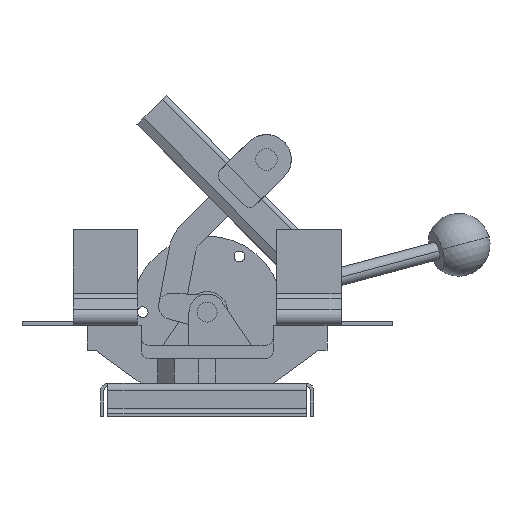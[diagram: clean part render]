
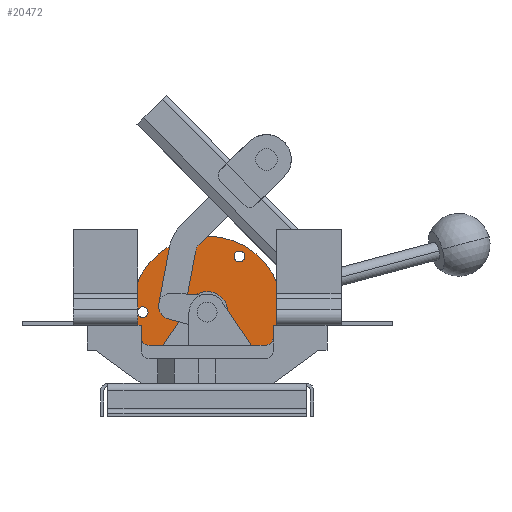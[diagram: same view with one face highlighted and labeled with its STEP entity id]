
A CAD part, left-side view. The second image highlights one B-rep face of the part: STEP entity #20472.
In plain terms, the highlighted planar face has unit normal (-1, 0, 0).
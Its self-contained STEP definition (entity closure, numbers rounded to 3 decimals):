
#100 = CARTESIAN_POINT ( 'NONE',  ( 170., 0., 0. ) ) ;
#436 = EDGE_CURVE ( 'NONE', #9251, #494, #24635, .T. ) ;
#439 = CARTESIAN_POINT ( 'NONE',  ( 170., 0., -12.5 ) ) ;
#494 = VERTEX_POINT ( 'NONE', #7310 ) ;
#1192 = ORIENTED_EDGE ( 'NONE', *, *, #17752, .F. ) ;
#1714 = DIRECTION ( 'NONE',  ( -1., 0., 0. ) ) ;
#1959 = AXIS2_PLACEMENT_3D ( 'NONE', #15404, #1714, #9380 ) ;
#2087 = EDGE_LOOP ( 'NONE', ( #4791, #1192 ) ) ;
#2116 = DIRECTION ( 'NONE',  ( 1., 0., 0. ) ) ;
#2406 = AXIS2_PLACEMENT_3D ( 'NONE', #23362, #25361, #15227 ) ;
#2428 = CARTESIAN_POINT ( 'NONE',  ( 170., -19.5, -33.775 ) ) ;
#2524 = CIRCLE ( 'NONE', #9730, 3.25 ) ;
#2680 = CARTESIAN_POINT ( 'NONE',  ( 170., 39., 0. ) ) ;
#2716 = ORIENTED_EDGE ( 'NONE', *, *, #9230, .T. ) ;
#2866 = CARTESIAN_POINT ( 'NONE',  ( 170., 39., 0. ) ) ;
#3797 = EDGE_LOOP ( 'NONE', ( #22595, #2716 ) ) ;
#4791 = ORIENTED_EDGE ( 'NONE', *, *, #6083, .F. ) ;
#5829 = CARTESIAN_POINT ( 'NONE',  ( 170., 0., 12.5 ) ) ;
#5883 = ORIENTED_EDGE ( 'NONE', *, *, #15957, .F. ) ;
#6083 = EDGE_CURVE ( 'NONE', #24909, #25318, #11744, .T. ) ;
#6984 = FACE_BOUND ( 'NONE', #3797, .T. ) ;
#7310 = CARTESIAN_POINT ( 'NONE',  ( 170., 39., 3.25 ) ) ;
#7479 = AXIS2_PLACEMENT_3D ( 'NONE', #2866, #16770, #18560 ) ;
#7558 = CARTESIAN_POINT ( 'NONE',  ( 170., -19.5, -30.525 ) ) ;
#7891 = DIRECTION ( 'NONE',  ( 0., 0., -1. ) ) ;
#8018 = ORIENTED_EDGE ( 'NONE', *, *, #20959, .F. ) ;
#8351 = DIRECTION ( 'NONE',  ( 0., 0., -1. ) ) ;
#8518 = FACE_BOUND ( 'NONE', #17915, .T. ) ;
#9230 = EDGE_CURVE ( 'NONE', #24754, #22999, #14342, .T. ) ;
#9251 = VERTEX_POINT ( 'NONE', #24886 ) ;
#9380 = DIRECTION ( 'NONE',  ( 0., 0., -1. ) ) ;
#9730 = AXIS2_PLACEMENT_3D ( 'NONE', #18233, #22162, #12291 ) ;
#9997 = DIRECTION ( 'NONE',  ( 0., 0., -1. ) ) ;
#10114 = CIRCLE ( 'NONE', #16747, 3.25 ) ;
#10154 = DIRECTION ( 'NONE',  ( 1., 0., 0. ) ) ;
#10665 = CARTESIAN_POINT ( 'NONE',  ( 170., 0., -46. ) ) ;
#10672 = FACE_OUTER_BOUND ( 'NONE', #2087, .T. ) ;
#10698 = CIRCLE ( 'NONE', #10847, 12.5 ) ;
#10847 = AXIS2_PLACEMENT_3D ( 'NONE', #100, #10154, #9997 ) ;
#11131 = DIRECTION ( 'NONE',  ( 0., 0., -1. ) ) ;
#11479 = AXIS2_PLACEMENT_3D ( 'NONE', #2428, #20123, #13968 ) ;
#11744 = CIRCLE ( 'NONE', #2406, 46. ) ;
#12134 = EDGE_LOOP ( 'NONE', ( #21675, #21307 ) ) ;
#12291 = DIRECTION ( 'NONE',  ( 0., 0., -1. ) ) ;
#12324 = CARTESIAN_POINT ( 'NONE',  ( 170., -19.5, 37.025 ) ) ;
#12377 = EDGE_CURVE ( 'NONE', #22999, #24754, #10698, .T. ) ;
#13653 = AXIS2_PLACEMENT_3D ( 'NONE', #19806, #2116, #22730 ) ;
#13689 = ORIENTED_EDGE ( 'NONE', *, *, #17153, .F. ) ;
#13968 = DIRECTION ( 'NONE',  ( 0., 0., -1. ) ) ;
#14326 = CARTESIAN_POINT ( 'NONE',  ( 170., -19.5, 30.525 ) ) ;
#14342 = CIRCLE ( 'NONE', #18821, 12.5 ) ;
#14559 = DIRECTION ( 'NONE',  ( -1., 0., 0. ) ) ;
#15180 = CARTESIAN_POINT ( 'NONE',  ( 170., 0., 0. ) ) ;
#15227 = DIRECTION ( 'NONE',  ( 0., 0., -1. ) ) ;
#15277 = VERTEX_POINT ( 'NONE', #12324 ) ;
#15404 = CARTESIAN_POINT ( 'NONE',  ( 170., -19.5, 33.775 ) ) ;
#15941 = FACE_BOUND ( 'NONE', #17725, .T. ) ;
#15957 = EDGE_CURVE ( 'NONE', #19913, #21338, #16568, .T. ) ;
#15998 = CARTESIAN_POINT ( 'NONE',  ( 170., -19.5, 33.775 ) ) ;
#16568 = CIRCLE ( 'NONE', #11479, 3.25 ) ;
#16747 = AXIS2_PLACEMENT_3D ( 'NONE', #15998, #19983, #7891 ) ;
#16767 = DIRECTION ( 'NONE',  ( 0., 0., -1. ) ) ;
#16770 = DIRECTION ( 'NONE',  ( -1., 0., 0. ) ) ;
#16839 = CARTESIAN_POINT ( 'NONE',  ( 170., 0., 0. ) ) ;
#17153 = EDGE_CURVE ( 'NONE', #21338, #19913, #2524, .T. ) ;
#17725 = EDGE_LOOP ( 'NONE', ( #18361, #8018 ) ) ;
#17752 = EDGE_CURVE ( 'NONE', #25318, #24909, #20443, .T. ) ;
#17915 = EDGE_LOOP ( 'NONE', ( #5883, #13689 ) ) ;
#17998 = CARTESIAN_POINT ( 'NONE',  ( 170., 0., 46. ) ) ;
#18233 = CARTESIAN_POINT ( 'NONE',  ( 170., -19.5, -33.775 ) ) ;
#18361 = ORIENTED_EDGE ( 'NONE', *, *, #436, .F. ) ;
#18560 = DIRECTION ( 'NONE',  ( 0., 0., -1. ) ) ;
#18775 = EDGE_CURVE ( 'NONE', #18900, #15277, #10114, .T. ) ;
#18821 = AXIS2_PLACEMENT_3D ( 'NONE', #15180, #22821, #11131 ) ;
#18900 = VERTEX_POINT ( 'NONE', #14326 ) ;
#19806 = CARTESIAN_POINT ( 'NONE',  ( 170., 0., 0. ) ) ;
#19913 = VERTEX_POINT ( 'NONE', #25556 ) ;
#19983 = DIRECTION ( 'NONE',  ( -1., 0., 0. ) ) ;
#20123 = DIRECTION ( 'NONE',  ( -1., 0., 0. ) ) ;
#20443 = CIRCLE ( 'NONE', #22845, 46. ) ;
#20472 = ADVANCED_FACE ( 'NONE', ( #22163, #15941, #8518, #6984, #10672 ), #23873, .F. ) ;
#20544 = CIRCLE ( 'NONE', #24128, 3.25 ) ;
#20959 = EDGE_CURVE ( 'NONE', #494, #9251, #20544, .T. ) ;
#21307 = ORIENTED_EDGE ( 'NONE', *, *, #25194, .F. ) ;
#21338 = VERTEX_POINT ( 'NONE', #7558 ) ;
#21675 = ORIENTED_EDGE ( 'NONE', *, *, #18775, .F. ) ;
#22162 = DIRECTION ( 'NONE',  ( -1., 0., 0. ) ) ;
#22163 = FACE_BOUND ( 'NONE', #12134, .T. ) ;
#22595 = ORIENTED_EDGE ( 'NONE', *, *, #12377, .T. ) ;
#22695 = CIRCLE ( 'NONE', #1959, 3.25 ) ;
#22730 = DIRECTION ( 'NONE',  ( 0., 0., -1. ) ) ;
#22821 = DIRECTION ( 'NONE',  ( 1., 0., 0. ) ) ;
#22845 = AXIS2_PLACEMENT_3D ( 'NONE', #16839, #24970, #16767 ) ;
#22999 = VERTEX_POINT ( 'NONE', #5829 ) ;
#23362 = CARTESIAN_POINT ( 'NONE',  ( 170., 0., 0. ) ) ;
#23873 = PLANE ( 'NONE',  #13653 ) ;
#24128 = AXIS2_PLACEMENT_3D ( 'NONE', #2680, #14559, #8351 ) ;
#24635 = CIRCLE ( 'NONE', #7479, 3.25 ) ;
#24754 = VERTEX_POINT ( 'NONE', #439 ) ;
#24886 = CARTESIAN_POINT ( 'NONE',  ( 170., 39., -3.25 ) ) ;
#24909 = VERTEX_POINT ( 'NONE', #10665 ) ;
#24970 = DIRECTION ( 'NONE',  ( 1., 0., 0. ) ) ;
#25194 = EDGE_CURVE ( 'NONE', #15277, #18900, #22695, .T. ) ;
#25318 = VERTEX_POINT ( 'NONE', #17998 ) ;
#25361 = DIRECTION ( 'NONE',  ( 1., 0., 0. ) ) ;
#25556 = CARTESIAN_POINT ( 'NONE',  ( 170., -19.5, -37.025 ) ) ;
